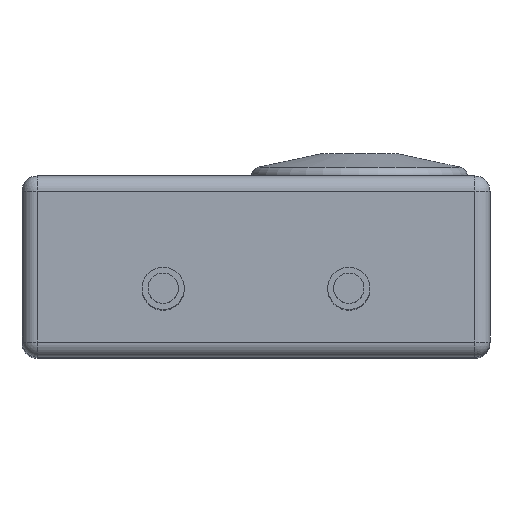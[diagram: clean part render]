
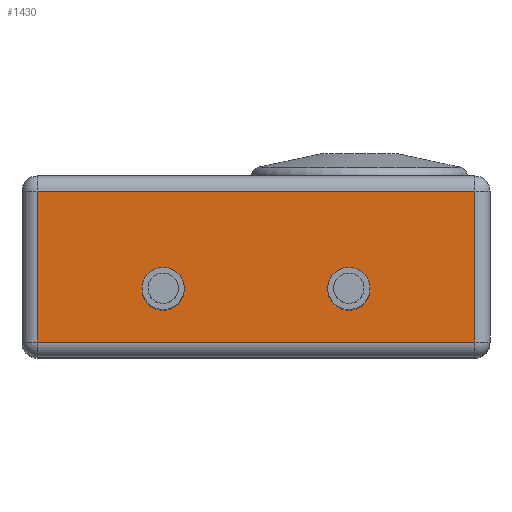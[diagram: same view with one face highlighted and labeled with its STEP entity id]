
A CAD part, top view. The second image highlights one B-rep face of the part: STEP entity #1430.
In plain terms, the highlighted planar face has unit normal (0, 0, 1) as drawn and (1, 0, 0) by its records, which use the part's own axes.
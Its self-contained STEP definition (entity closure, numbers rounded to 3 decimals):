
#36=FACE_BOUND('',#322,.T.);
#37=FACE_BOUND('',#323,.T.);
#69=CIRCLE('',#1588,1.4);
#70=CIRCLE('',#1591,1.4);
#225=FACE_OUTER_BOUND('',#321,.T.);
#321=EDGE_LOOP('',(#1189,#1190,#1191,#1192));
#322=EDGE_LOOP('',(#1193));
#323=EDGE_LOOP('',(#1194));
#434=LINE('',#2476,#550);
#438=LINE('',#2494,#554);
#440=LINE('',#2500,#556);
#441=LINE('',#2501,#557);
#550=VECTOR('',#2045,10.);
#554=VECTOR('',#2071,10.);
#556=VECTOR('',#2077,10.);
#557=VECTOR('',#2078,10.);
#628=VERTEX_POINT('',#2316);
#629=VERTEX_POINT('',#2321);
#676=VERTEX_POINT('',#2473);
#677=VERTEX_POINT('',#2475);
#680=VERTEX_POINT('',#2493);
#682=VERTEX_POINT('',#2499);
#773=EDGE_CURVE('',#628,#628,#69,.T.);
#775=EDGE_CURVE('',#629,#629,#70,.T.);
#845=EDGE_CURVE('',#676,#677,#434,.T.);
#855=EDGE_CURVE('',#677,#680,#438,.T.);
#858=EDGE_CURVE('',#682,#676,#440,.T.);
#859=EDGE_CURVE('',#680,#682,#441,.T.);
#1189=ORIENTED_EDGE('',*,*,#845,.F.);
#1190=ORIENTED_EDGE('',*,*,#858,.F.);
#1191=ORIENTED_EDGE('',*,*,#859,.F.);
#1192=ORIENTED_EDGE('',*,*,#855,.F.);
#1193=ORIENTED_EDGE('',*,*,#773,.T.);
#1194=ORIENTED_EDGE('',*,*,#775,.T.);
#1309=PLANE('',#1667);
#1430=ADVANCED_FACE('',(#225,#36,#37),#1309,.T.);
#1588=AXIS2_PLACEMENT_3D('',#2318,#1869,#1870);
#1591=AXIS2_PLACEMENT_3D('',#2323,#1876,#1877);
#1667=AXIS2_PLACEMENT_3D('',#2498,#2075,#2076);
#1869=DIRECTION('center_axis',(-1.,0.,0.));
#1870=DIRECTION('ref_axis',(0.,0.,-1.));
#1876=DIRECTION('center_axis',(-1.,0.,0.));
#1877=DIRECTION('ref_axis',(0.,0.,-1.));
#2045=DIRECTION('',(0.,-1.,0.));
#2071=DIRECTION('',(0.,0.,1.));
#2075=DIRECTION('center_axis',(1.,0.,0.));
#2076=DIRECTION('ref_axis',(0.,1.,0.));
#2077=DIRECTION('',(0.,0.,-1.));
#2078=DIRECTION('',(0.,1.,0.));
#2316=CARTESIAN_POINT('',(25.25,6.15,8.9));
#2318=CARTESIAN_POINT('Origin',(25.25,6.15,7.5));
#2321=CARTESIAN_POINT('',(25.25,-6.15,8.9));
#2323=CARTESIAN_POINT('Origin',(25.25,-6.15,7.5));
#2473=CARTESIAN_POINT('',(25.25,14.5,1.));
#2475=CARTESIAN_POINT('',(25.25,-14.5,1.));
#2476=CARTESIAN_POINT('',(25.25,-7.75,1.));
#2493=CARTESIAN_POINT('',(25.25,-14.5,11.));
#2494=CARTESIAN_POINT('',(25.25,-14.5,0.));
#2498=CARTESIAN_POINT('Origin',(25.25,-15.5,0.));
#2499=CARTESIAN_POINT('',(25.25,14.5,11.));
#2500=CARTESIAN_POINT('',(25.25,14.5,0.));
#2501=CARTESIAN_POINT('',(25.25,-7.75,11.));
